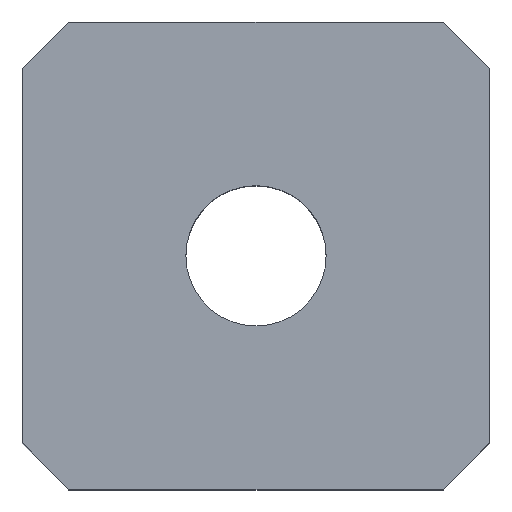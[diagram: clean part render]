
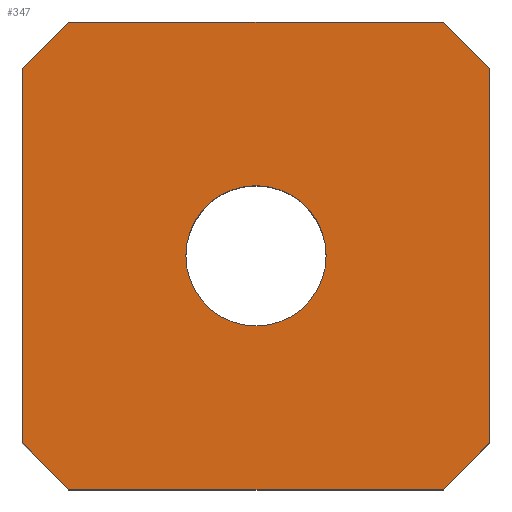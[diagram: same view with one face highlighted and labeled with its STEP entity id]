
A CAD part, top view. The second image highlights one B-rep face of the part: STEP entity #347.
In plain terms, the highlighted planar face has unit normal (0, 0, 1).
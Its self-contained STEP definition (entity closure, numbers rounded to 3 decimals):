
#2 = DIRECTION ( 'NONE',  ( 1., 0., 0. ) ) ;
#3 = EDGE_CURVE ( 'NONE', #215, #331, #118, .T. ) ;
#15 = CARTESIAN_POINT ( 'NONE',  ( -5.35, -1.5, 4.8 ) ) ;
#17 = FACE_OUTER_BOUND ( 'NONE', #244, .T. ) ;
#19 = CARTESIAN_POINT ( 'NONE',  ( -8.85, -6.5, 4.8 ) ) ;
#23 = FACE_BOUND ( 'NONE', #212, .T. ) ;
#30 = CARTESIAN_POINT ( 'NONE',  ( 0., 0., 4.8 ) ) ;
#31 = CARTESIAN_POINT ( 'NONE',  ( -7.85, 3.5, 4.8 ) ) ;
#34 = CARTESIAN_POINT ( 'NONE',  ( -8.85, 2.5, 4.8 ) ) ;
#35 = PLANE ( 'NONE',  #104 ) ;
#49 = LINE ( 'NONE', #19, #57 ) ;
#57 = VECTOR ( 'NONE', #2, 1000. ) ;
#59 = VECTOR ( 'NONE', #293, 1000. ) ;
#64 = CARTESIAN_POINT ( 'NONE',  ( -7.85, -6.5, 4.8 ) ) ;
#67 = VECTOR ( 'NONE', #110, 1000. ) ;
#71 = CARTESIAN_POINT ( 'NONE',  ( -8.85, 3.5, 4.8 ) ) ;
#72 = LINE ( 'NONE', #144, #67 ) ;
#83 = AXIS2_PLACEMENT_3D ( 'NONE', #421, #295, #411 ) ;
#85 = EDGE_CURVE ( 'NONE', #156, #162, #130, .T. ) ;
#89 = VERTEX_POINT ( 'NONE', #143 ) ;
#97 = LINE ( 'NONE', #132, #100 ) ;
#98 = CARTESIAN_POINT ( 'NONE',  ( -7.175, -7.175, 4.8 ) ) ;
#100 = VECTOR ( 'NONE', #138, 1000. ) ;
#104 = AXIS2_PLACEMENT_3D ( 'NONE', #30, #146, #337 ) ;
#107 = VECTOR ( 'NONE', #168, 1000. ) ;
#110 = DIRECTION ( 'NONE',  ( -1., 0., 0. ) ) ;
#112 = CARTESIAN_POINT ( 'NONE',  ( 1.15, -5.5, 4.8 ) ) ;
#113 = CARTESIAN_POINT ( 'NONE',  ( 0.15, -6.5, 4.8 ) ) ;
#118 = CIRCLE ( 'NONE', #339, 1.5 ) ;
#127 = ORIENTED_EDGE ( 'NONE', *, *, #375, .F. ) ;
#130 = LINE ( 'NONE', #191, #107 ) ;
#132 = CARTESIAN_POINT ( 'NONE',  ( 1.15, 3.5, 4.8 ) ) ;
#134 = VERTEX_POINT ( 'NONE', #140 ) ;
#138 = DIRECTION ( 'NONE',  ( 0., 1., 0. ) ) ;
#140 = CARTESIAN_POINT ( 'NONE',  ( -8.85, -5.5, 4.8 ) ) ;
#143 = CARTESIAN_POINT ( 'NONE',  ( 1.15, 2.5, 4.8 ) ) ;
#144 = CARTESIAN_POINT ( 'NONE',  ( -8.85, 3.5, 4.8 ) ) ;
#146 = DIRECTION ( 'NONE',  ( 0., 0., 1. ) ) ;
#148 = EDGE_CURVE ( 'NONE', #162, #89, #97, .T. ) ;
#156 = VERTEX_POINT ( 'NONE', #113 ) ;
#157 = EDGE_CURVE ( 'NONE', #341, #272, #72, .T. ) ;
#162 = VERTEX_POINT ( 'NONE', #112 ) ;
#168 = DIRECTION ( 'NONE',  ( 0.707, 0.707, 0. ) ) ;
#170 = ORIENTED_EDGE ( 'NONE', *, *, #181, .T. ) ;
#171 = VERTEX_POINT ( 'NONE', #64 ) ;
#181 = EDGE_CURVE ( 'NONE', #171, #156, #49, .T. ) ;
#186 = ORIENTED_EDGE ( 'NONE', *, *, #384, .T. ) ;
#191 = CARTESIAN_POINT ( 'NONE',  ( 3.325, -3.325, 4.8 ) ) ;
#212 = EDGE_LOOP ( 'NONE', ( #127, #304 ) ) ;
#215 = VERTEX_POINT ( 'NONE', #15 ) ;
#228 = DIRECTION ( 'NONE',  ( 1., 0., 0. ) ) ;
#244 = EDGE_LOOP ( 'NONE', ( #276, #252, #319, #186, #367, #346, #170, #345 ) ) ;
#248 = CARTESIAN_POINT ( 'NONE',  ( 1.825, 1.825, 4.8 ) ) ;
#251 = DIRECTION ( 'NONE',  ( 0., 0., 1. ) ) ;
#252 = ORIENTED_EDGE ( 'NONE', *, *, #383, .T. ) ;
#265 = CARTESIAN_POINT ( 'NONE',  ( -3.85, -1.5, 4.8 ) ) ;
#266 = CARTESIAN_POINT ( 'NONE',  ( -5.675, 5.675, 4.8 ) ) ;
#272 = VERTEX_POINT ( 'NONE', #31 ) ;
#276 = ORIENTED_EDGE ( 'NONE', *, *, #148, .T. ) ;
#281 = VERTEX_POINT ( 'NONE', #34 ) ;
#293 = DIRECTION ( 'NONE',  ( 0., -1., 0. ) ) ;
#295 = DIRECTION ( 'NONE',  ( 0., 0., 1. ) ) ;
#301 = CIRCLE ( 'NONE', #83, 1.5 ) ;
#304 = ORIENTED_EDGE ( 'NONE', *, *, #3, .F. ) ;
#307 = VECTOR ( 'NONE', #418, 1000. ) ;
#319 = ORIENTED_EDGE ( 'NONE', *, *, #157, .T. ) ;
#331 = VERTEX_POINT ( 'NONE', #433 ) ;
#337 = DIRECTION ( 'NONE',  ( 1., 0., 0. ) ) ;
#339 = AXIS2_PLACEMENT_3D ( 'NONE', #265, #251, #228 ) ;
#341 = VERTEX_POINT ( 'NONE', #365 ) ;
#345 = ORIENTED_EDGE ( 'NONE', *, *, #85, .T. ) ;
#346 = ORIENTED_EDGE ( 'NONE', *, *, #398, .T. ) ;
#347 = ADVANCED_FACE ( 'NONE', ( #23, #17 ), #35, .T. ) ;
#365 = CARTESIAN_POINT ( 'NONE',  ( 0.15, 3.5, 4.8 ) ) ;
#367 = ORIENTED_EDGE ( 'NONE', *, *, #435, .T. ) ;
#375 = EDGE_CURVE ( 'NONE', #331, #215, #301, .T. ) ;
#382 = VECTOR ( 'NONE', #423, 1000. ) ;
#383 = EDGE_CURVE ( 'NONE', #89, #341, #405, .T. ) ;
#384 = EDGE_CURVE ( 'NONE', #272, #281, #430, .T. ) ;
#391 = VECTOR ( 'NONE', #439, 1000. ) ;
#398 = EDGE_CURVE ( 'NONE', #134, #171, #431, .T. ) ;
#405 = LINE ( 'NONE', #248, #307 ) ;
#411 = DIRECTION ( 'NONE',  ( 1., 0., 0. ) ) ;
#416 = LINE ( 'NONE', #71, #59 ) ;
#418 = DIRECTION ( 'NONE',  ( -0.707, 0.707, 0. ) ) ;
#421 = CARTESIAN_POINT ( 'NONE',  ( -3.85, -1.5, 4.8 ) ) ;
#423 = DIRECTION ( 'NONE',  ( 0.707, -0.707, 0. ) ) ;
#430 = LINE ( 'NONE', #266, #391 ) ;
#431 = LINE ( 'NONE', #98, #382 ) ;
#433 = CARTESIAN_POINT ( 'NONE',  ( -2.35, -1.5, 4.8 ) ) ;
#435 = EDGE_CURVE ( 'NONE', #281, #134, #416, .T. ) ;
#439 = DIRECTION ( 'NONE',  ( -0.707, -0.707, 0. ) ) ;
